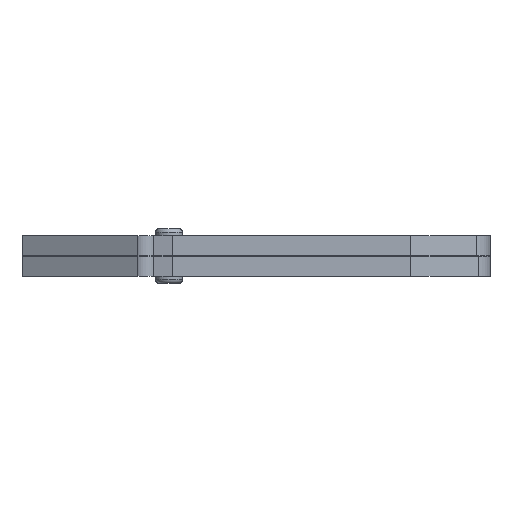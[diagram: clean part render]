
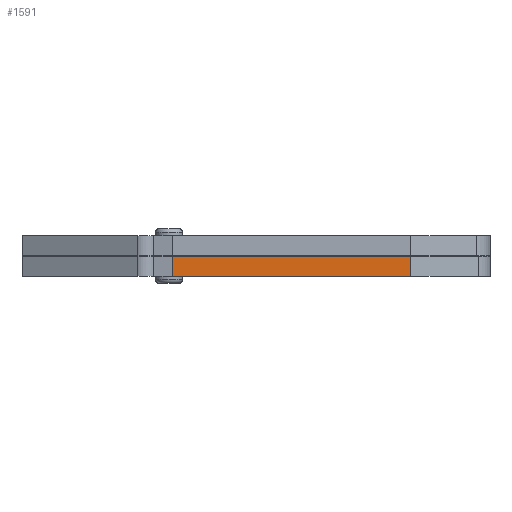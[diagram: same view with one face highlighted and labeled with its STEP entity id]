
A CAD part, left-side view. The second image highlights one B-rep face of the part: STEP entity #1591.
In plain terms, the highlighted planar face has unit normal (-1, 0, 0).
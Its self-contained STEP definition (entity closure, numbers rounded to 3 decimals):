
#1591 = ADVANCED_FACE('',(#1592),#1606,.F.);
#1592 = FACE_BOUND('',#1593,.T.);
#1593 = EDGE_LOOP('',(#1594,#1617,#1633,#1649));
#1594 = ORIENTED_EDGE('',*,*,#1595,.T.);
#1595 = EDGE_CURVE('',#1596,#1598,#1600,.T.);
#1596 = VERTEX_POINT('',#1597);
#1597 = CARTESIAN_POINT('',(471.047,153.813,0.));
#1598 = VERTEX_POINT('',#1599);
#1599 = CARTESIAN_POINT('',(471.047,136.313,0.));
#1600 = SURFACE_CURVE('',#1601,(#1605),.PCURVE_S1.);
#1601 = LINE('',#1602,#1603);
#1602 = CARTESIAN_POINT('',(471.047,153.813,0.));
#1603 = VECTOR('',#1604,1.);
#1604 = DIRECTION('',(0.,-1.,0.));
#1605 = PCURVE('',#1606,#1611);
#1606 = PLANE('',#1607);
#1607 = AXIS2_PLACEMENT_3D('',#1608,#1609,#1610);
#1608 = CARTESIAN_POINT('',(471.047,153.813,1.5));
#1609 = DIRECTION('',(1.,0.,0.));
#1610 = DIRECTION('',(0.,0.,-1.));
#1611 = DEFINITIONAL_REPRESENTATION('',(#1612),#1616);
#1612 = LINE('',#1613,#1614);
#1613 = CARTESIAN_POINT('',(1.5,0.));
#1614 = VECTOR('',#1615,1.);
#1615 = DIRECTION('',(0.,-1.));
#1616 = ( GEOMETRIC_REPRESENTATION_CONTEXT(2) 
PARAMETRIC_REPRESENTATION_CONTEXT() REPRESENTATION_CONTEXT('2D SPACE',''
  ) );
#1617 = ORIENTED_EDGE('',*,*,#1618,.F.);
#1618 = EDGE_CURVE('',#1619,#1598,#1621,.T.);
#1619 = VERTEX_POINT('',#1620);
#1620 = CARTESIAN_POINT('',(471.047,136.313,1.5));
#1621 = SURFACE_CURVE('',#1622,(#1626),.PCURVE_S1.);
#1622 = LINE('',#1623,#1624);
#1623 = CARTESIAN_POINT('',(471.047,136.313,1.5));
#1624 = VECTOR('',#1625,1.);
#1625 = DIRECTION('',(0.,0.,-1.));
#1626 = PCURVE('',#1606,#1627);
#1627 = DEFINITIONAL_REPRESENTATION('',(#1628),#1632);
#1628 = LINE('',#1629,#1630);
#1629 = CARTESIAN_POINT('',(0.,-17.5));
#1630 = VECTOR('',#1631,1.);
#1631 = DIRECTION('',(1.,0.));
#1632 = ( GEOMETRIC_REPRESENTATION_CONTEXT(2) 
PARAMETRIC_REPRESENTATION_CONTEXT() REPRESENTATION_CONTEXT('2D SPACE',''
  ) );
#1633 = ORIENTED_EDGE('',*,*,#1634,.F.);
#1634 = EDGE_CURVE('',#1635,#1619,#1637,.T.);
#1635 = VERTEX_POINT('',#1636);
#1636 = CARTESIAN_POINT('',(471.047,153.813,1.5));
#1637 = SURFACE_CURVE('',#1638,(#1642),.PCURVE_S1.);
#1638 = LINE('',#1639,#1640);
#1639 = CARTESIAN_POINT('',(471.047,153.813,1.5));
#1640 = VECTOR('',#1641,1.);
#1641 = DIRECTION('',(0.,-1.,0.));
#1642 = PCURVE('',#1606,#1643);
#1643 = DEFINITIONAL_REPRESENTATION('',(#1644),#1648);
#1644 = LINE('',#1645,#1646);
#1645 = CARTESIAN_POINT('',(0.,0.));
#1646 = VECTOR('',#1647,1.);
#1647 = DIRECTION('',(0.,-1.));
#1648 = ( GEOMETRIC_REPRESENTATION_CONTEXT(2) 
PARAMETRIC_REPRESENTATION_CONTEXT() REPRESENTATION_CONTEXT('2D SPACE',''
  ) );
#1649 = ORIENTED_EDGE('',*,*,#1650,.T.);
#1650 = EDGE_CURVE('',#1635,#1596,#1651,.T.);
#1651 = SURFACE_CURVE('',#1652,(#1656),.PCURVE_S1.);
#1652 = LINE('',#1653,#1654);
#1653 = CARTESIAN_POINT('',(471.047,153.813,1.5));
#1654 = VECTOR('',#1655,1.);
#1655 = DIRECTION('',(0.,0.,-1.));
#1656 = PCURVE('',#1606,#1657);
#1657 = DEFINITIONAL_REPRESENTATION('',(#1658),#1662);
#1658 = LINE('',#1659,#1660);
#1659 = CARTESIAN_POINT('',(0.,0.));
#1660 = VECTOR('',#1661,1.);
#1661 = DIRECTION('',(1.,0.));
#1662 = ( GEOMETRIC_REPRESENTATION_CONTEXT(2) 
PARAMETRIC_REPRESENTATION_CONTEXT() REPRESENTATION_CONTEXT('2D SPACE',''
  ) );
